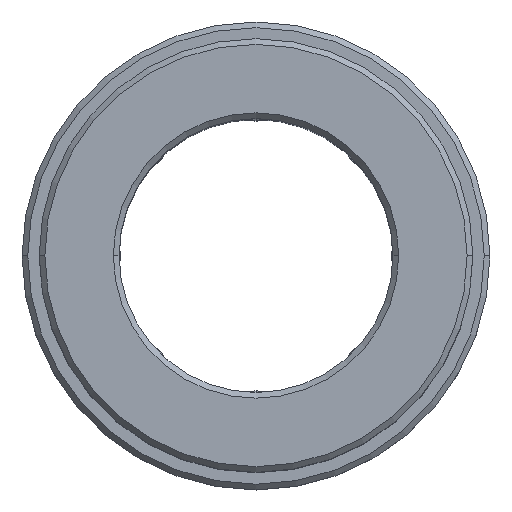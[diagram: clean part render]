
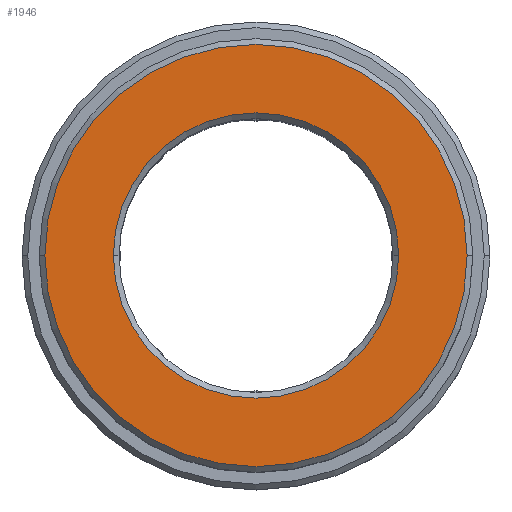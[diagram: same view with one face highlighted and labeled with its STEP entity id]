
A CAD part, top view. The second image highlights one B-rep face of the part: STEP entity #1946.
In plain terms, the highlighted planar face has unit normal (0, 0, 1).
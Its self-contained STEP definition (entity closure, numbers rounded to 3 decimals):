
#949=CARTESIAN_POINT('',(0.,0.,
27.));
#950=DIRECTION('',(0.,0.,-1.));
#951=DIRECTION('',(1.,0.,0.));
#952=AXIS2_PLACEMENT_3D('',#949,#950,#951);
#954=CARTESIAN_POINT('',(0.,0.,
27.));
#955=DIRECTION('',(0.,0.,-1.));
#956=DIRECTION('',(-1.,0.,0.));
#957=AXIS2_PLACEMENT_3D('',#954,#955,#956);
#959=CARTESIAN_POINT('',(0.,0.,
27.));
#960=DIRECTION('',(0.,0.,-1.));
#961=DIRECTION('',(-1.,0.,0.));
#962=AXIS2_PLACEMENT_3D('',#959,#960,#961);
#964=CARTESIAN_POINT('',(0.,0.,
27.));
#965=DIRECTION('',(0.,0.,-1.));
#966=DIRECTION('',(1.,0.,0.));
#967=AXIS2_PLACEMENT_3D('',#964,#965,#966);
#1245=CARTESIAN_POINT('',(18.5,0.,27.));
#1246=CARTESIAN_POINT('',(-18.5,0.,27.));
#1247=VERTEX_POINT('',#1245);
#1248=VERTEX_POINT('',#1246);
#1249=CARTESIAN_POINT('',(-12.5,0.,27.));
#1250=CARTESIAN_POINT('',(12.5,0.,27.));
#1251=VERTEX_POINT('',#1249);
#1252=VERTEX_POINT('',#1250);
#1930=CARTESIAN_POINT('',(0.,0.,27.));
#1931=DIRECTION('',(0.,0.,1.));
#1932=DIRECTION('',(-1.,0.,0.));
#1933=AXIS2_PLACEMENT_3D('',#1930,#1931,#1932);
#1934=PLANE('',#1933);
#1936=ORIENTED_EDGE('',*,*,#1935,.T.);
#1938=ORIENTED_EDGE('',*,*,#1937,.T.);
#1939=EDGE_LOOP('',(#1936,#1938));
#1940=FACE_OUTER_BOUND('',#1939,.F.);
#1942=ORIENTED_EDGE('',*,*,#1941,.F.);
#1943=ORIENTED_EDGE('',*,*,#1920,.F.);
#1944=EDGE_LOOP('',(#1942,#1943));
#1945=FACE_BOUND('',#1944,.F.);
#1946=ADVANCED_FACE('',(#1940,#1945),#1934,.T.);
#953=CIRCLE('',#952,18.5);
#958=CIRCLE('',#957,18.5);
#963=CIRCLE('',#962,12.5);
#968=CIRCLE('',#967,12.5);
#1920=EDGE_CURVE('',#1252,#1251,#968,.T.);
#1935=EDGE_CURVE('',#1247,#1248,#953,.T.);
#1937=EDGE_CURVE('',#1248,#1247,#958,.T.);
#1941=EDGE_CURVE('',#1251,#1252,#963,.T.);
